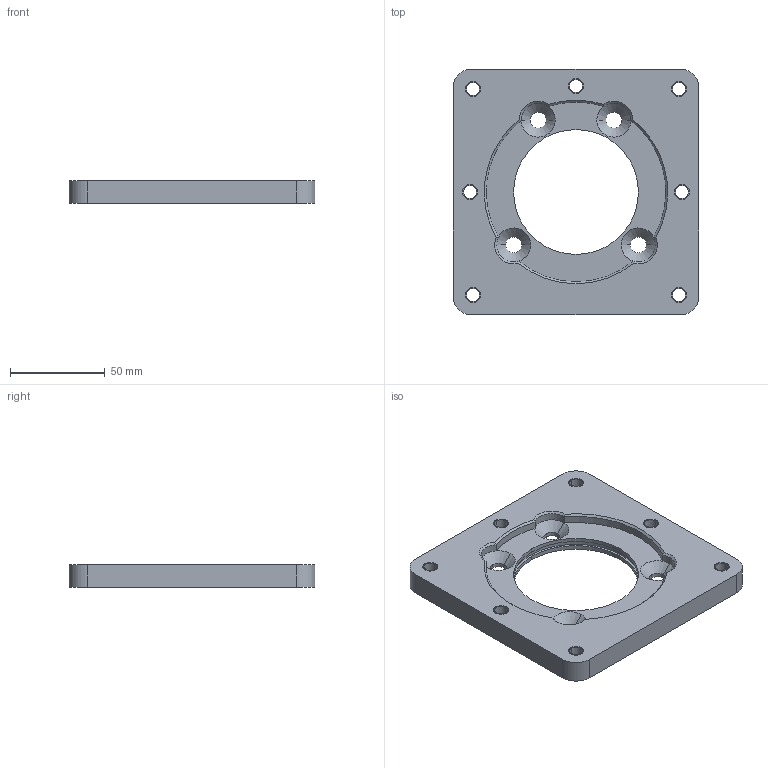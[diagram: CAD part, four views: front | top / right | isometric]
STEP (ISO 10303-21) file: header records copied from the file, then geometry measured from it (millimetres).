
FILE_DESCRIPTION((''),'2;1');
FILE_NAME('NV005A_0308-40-XIANGTIDIBAN','2025-10-08T',('sfc-lishengjun'),(''),'PRO/ENGINEER BY PARAMETRIC TECHNOLOGY CORPORATION, 2014310','PRO/ENGINEER BY PARAMETRIC TECHNOLOGY CORPORATION, 2014310','');
FILE_SCHEMA(('CONFIG_CONTROL_DESIGN'));
Length unit declared in the file: millimetre
Products named in the file (1): NV005A_0308-40-XIANGTIDIBAN
Bounding box: 130 x 130 x 12 mm (x, y, z)
Volume: 134112.6 mm3; surface area: 39724.5 mm2
Topology: 1 solids, 8 shells, 79 faces, 218 edges, 140 vertices
Faces by surface type: cylinder 54, cone 16, plane 9
Entity records: 2662 total; most frequent: DIRECTION 506, CARTESIAN_POINT 462, ORIENTED_EDGE 408, EDGE_CURVE 218, AXIS2_PLACEMENT_3D 216, VERTEX_POINT 140, CIRCLE 136, EDGE_LOOP 102
